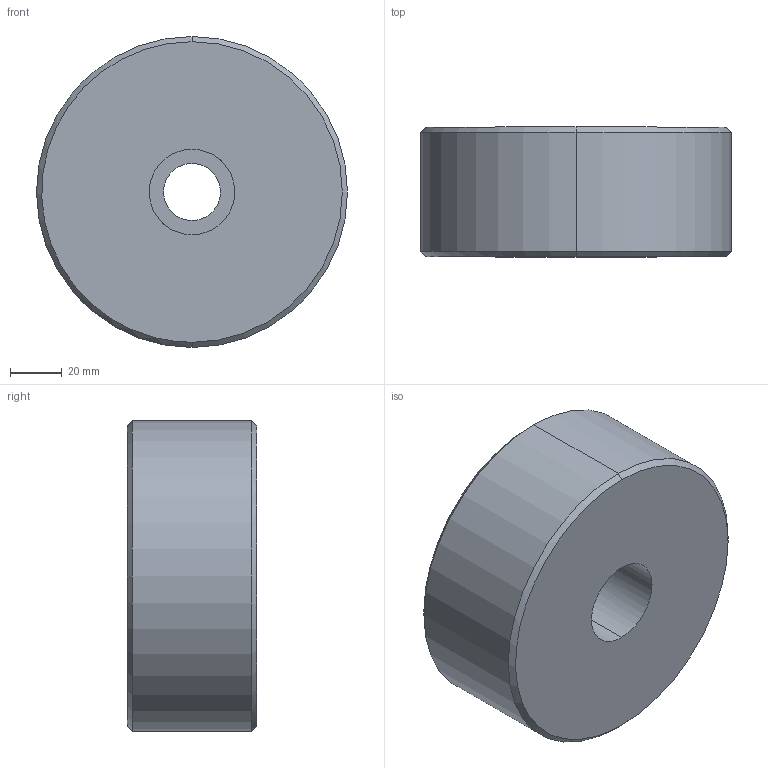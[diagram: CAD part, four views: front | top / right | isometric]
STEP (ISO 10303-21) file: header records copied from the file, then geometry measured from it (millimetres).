
FILE_DESCRIPTION(('CATIA V5 STEP Exchange'),'2;1');
FILE_NAME('C:\Users\Utente\Desktop\IO LAVORO\3D X SITO CF\X 3D SITO CF 27-09-2020\758\758+120+50+15.stp','2020-10-28T19:31:47+00:00',('none'),('none'),'CATIA Version 5 Release 20 GA (IN-10)','CATIA V5 STEP AP203','none');
FILE_SCHEMA(('CONFIG_CONTROL_DESIGN'));
Length unit declared in the file: millimetre
Products named in the file (1): 758+120+50+15
Bounding box: 120 x 50 x 120 mm (x, y, z)
Volume: 528358 mm3; surface area: 44480.3 mm2
Topology: 1 solids, 1 shells, 13 faces, 26 edges, 16 vertices
Faces by surface type: cylinder 6, cone 4, plane 3
Entity records: 521 total; most frequent: CARTESIAN_POINT 217, ORIENTED_EDGE 52, DIRECTION 45, EDGE_CURVE 26, AXIS2_PLACEMENT_3D 23, EDGE_LOOP 16, VERTEX_POINT 16, ADVANCED_FACE 13
